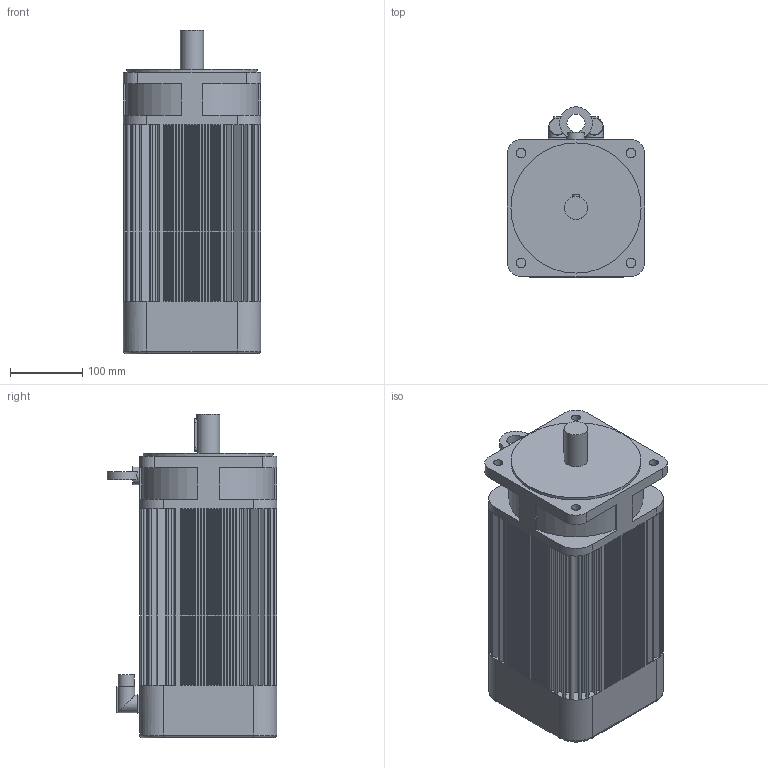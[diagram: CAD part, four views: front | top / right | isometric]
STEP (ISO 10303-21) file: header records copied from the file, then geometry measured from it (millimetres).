
FILE_DESCRIPTION(/* description */ (''),/* implementation_level */ '2;1');
FILE_NAME(/* name */ '\\Lafnas01\disegni\Archivi Lafert\3D\CAD 3D\MODELLI\Assiemi clienti\Serad\Modelli 3D Serad\B100I\Encoder\Enc With Brake\B1030Ixx6BRx2033.ipt.stp',/* time_stamp */ '2015-09-07T10:47:23+02:00',/* author */ ('Pastrello Ylenia'),/* organization */ (''),/* preprocessor_version */ 'ST-DEVELOPER v15.6',/* originating_system */ 'Autodesk Inventor 2015',/* authorisation */ '');
FILE_SCHEMA (('AUTOMOTIVE_DESIGN { 1 0 10303 214 3 1 1 }'));
Length unit declared in the file: millimetre
Products named in the file (1): B1030Ixx6BRx2033
Bounding box: 190 x 235 x 448 mm (x, y, z)
Volume: 13064193.8 mm3; surface area: 520767.1 mm2
Topology: 1 solids, 1 shells, 608 faces, 1497 edges, 980 vertices
Faces by surface type: plane 499, cylinder 105, torus 4
Full cylindrical faces by diameter (mm): 13 x4, 22.7 x2, 24 x2, 25 x2, 32 x1, 180 x1
Entity records: 17791 total; most frequent: CARTESIAN_POINT 3128, DIRECTION 2992, ORIENTED_EDGE 2962, EDGE_CURVE 1481, LINE 1180, VECTOR 1180, VERTEX_POINT 977, AXIS2_PLACEMENT_3D 906
